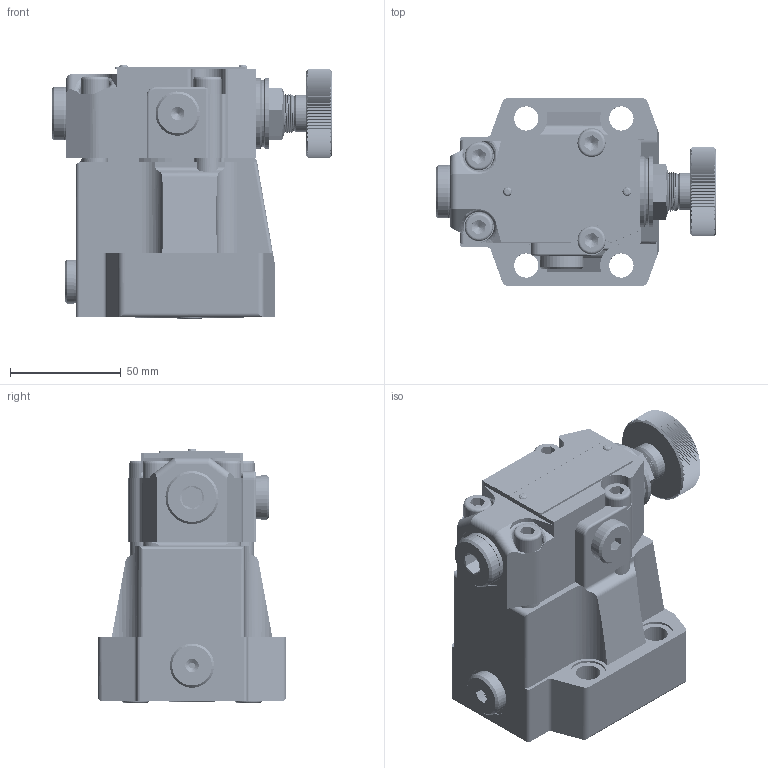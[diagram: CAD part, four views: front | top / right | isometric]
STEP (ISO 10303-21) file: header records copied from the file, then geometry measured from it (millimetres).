
FILE_DESCRIPTION(/* description */ (''),/* implementation_level */ '2;1');
FILE_NAME(/* name */ 'DR10-5XJ减压阀.prt.stp',/* time_stamp */ '2022-03-30T20:17:14+08:00',/* author */ (''),/* organization */ (''),/* preprocessor_version */ 'ST-DEVELOPER v16.7',/* originating_system */ 'SIEMENS PLM Software NX 12.0',/* authorisation */ '');
FILE_SCHEMA (('AUTOMOTIVE_DESIGN { 1 0 10303 214 3 1 1 1 }'));
Products named in the file (1): DR10-5XJ减压阀
Bounding box: 126.97 x 85 x 114.94 mm (x, y, z)
Volume: 568153.9 mm3; surface area: 105231.9 mm2
Topology: 29 solids, 35 shells, 1085 faces, 2882 edges, 1887 vertices
Faces by surface type: plane 638, cylinder 317, cone 51, bspline 44, torus 35
Full cylindrical faces by diameter (mm): 1.8 x4, 1.9 x2, 4.2 x1, 6 x2, 7 x12, 8 x93, 8.4 x4, 9 x8, 11 x4, 12.2 x4, 12.73 x4, 13 x1, 14.3 x2, 14.46 x1, 15.9 x1, 16 x5, 17 x1, 17.5 x4, 18.3 x1, 19 x2, 19.7 x2, 20 x3, 21.5 x2, 21.8 x2, 23 x1, 24 x2, 28 x1, 30 x2, 32 x2
Entity records: 88334 total; most frequent: CARTESIAN_POINT 65579, ORIENTED_EDGE 4714, DIRECTION 3660, EDGE_CURVE 2357, VERTEX_POINT 1626, AXIS2_PLACEMENT_3D 1376, EDGE_LOOP 1159, B_SPLINE_CURVE_WITH_KNOTS 1003
